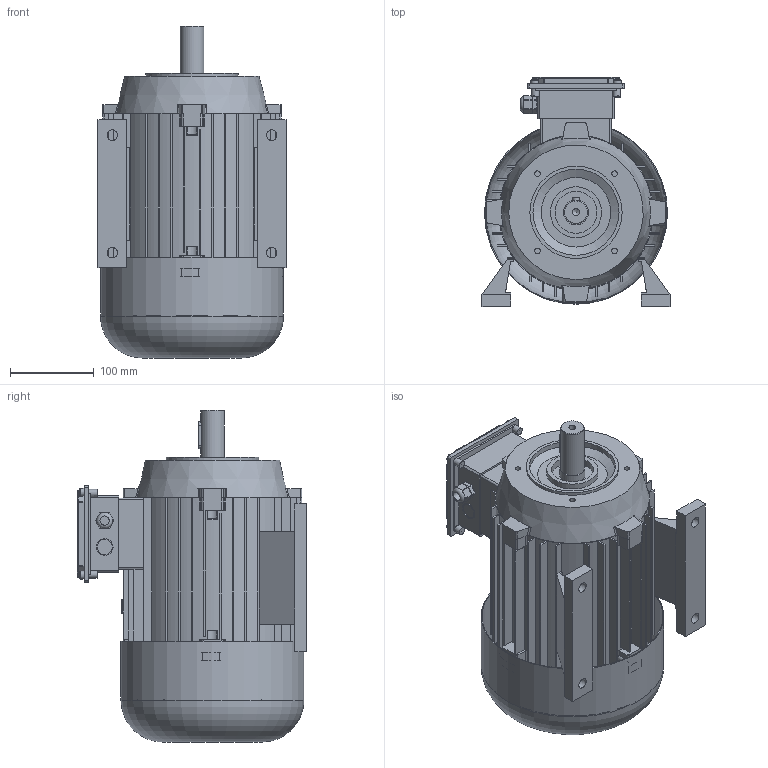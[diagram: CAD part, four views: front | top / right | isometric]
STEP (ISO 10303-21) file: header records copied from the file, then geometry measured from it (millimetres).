
FILE_DESCRIPTION(/* description */ (''),/* implementation_level */ '2;1');
FILE_NAME(/* name */ 'C:\Users\Public\Documents\Autodesk\Inventor LT 2014\Workspace\Componenti_ecoPM\4 - ECO_112 (TG6)\ECO5_112_xxA1_FULL.stp',/* time_stamp */ '2021-07-28T16:09:27+02:00',/* author */ ('marcor'),/* organization */ (''),/* preprocessor_version */ 'ST-DEVELOPER v15.2',/* originating_system */ 'Autodesk Inventor LT ',/* authorisation */ '');
FILE_SCHEMA (('AUTOMOTIVE_DESIGN { 1 0 10303 214 3 1 1 }'));
Length unit declared in the file: millimetre
Products named in the file (1): ECO5_112_xxA1_FULL
Bounding box: 224 x 272.8 x 395.5 mm (x, y, z)
Volume: 8123184.1 mm3; surface area: 643772.6 mm2
Topology: 1 solids, 5 shells, 579 faces, 1556 edges, 1012 vertices
Faces by surface type: plane 330, cylinder 190, cone 23, bspline 17, torus 11, sphere 8
Full cylindrical faces by diameter (mm): 4.134 x4, 4.2 x4, 6.647 x5, 8.376 x1, 9 x4, 9.5 x4, 11 x1, 12.5 x4, 16 x2, 16.9 x1, 17.294 x1, 18 x2, 20 x1, 28 x1, 30 x1, 50 x2, 54.9 x1, 60.8 x1, 102.5 x1, 110 x1, 158.914 x1, 216 x1, 218 x1
Entity records: 18741 total; most frequent: CARTESIAN_POINT 4594, ORIENTED_EDGE 2914, DIRECTION 2898, EDGE_CURVE 1453, AXIS2_PLACEMENT_3D 1026, VERTEX_POINT 979, LINE 846, VECTOR 846
